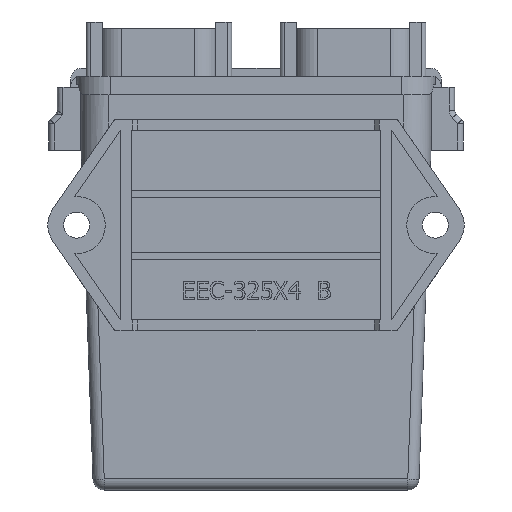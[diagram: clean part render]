
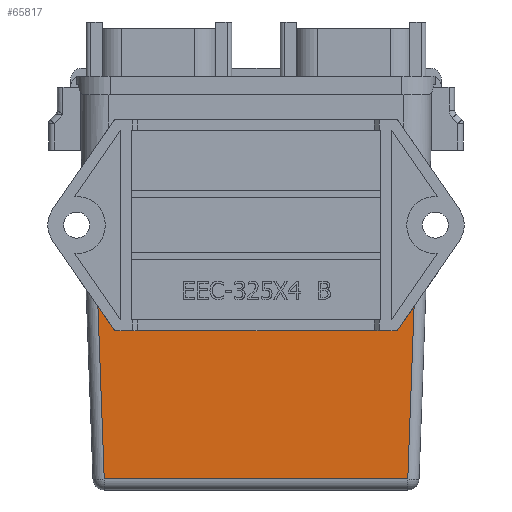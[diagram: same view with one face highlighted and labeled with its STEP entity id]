
A CAD part, front view. The second image highlights one B-rep face of the part: STEP entity #65817.
In plain terms, the highlighted planar face has unit normal (0, -1, -0.019).
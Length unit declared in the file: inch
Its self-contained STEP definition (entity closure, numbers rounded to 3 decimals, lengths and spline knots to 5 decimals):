
#62706=CARTESIAN_POINT('',(-1.575,-0.59645,-2.71));
#62707=VERTEX_POINT('',#62706);
#62714=CARTESIAN_POINT('',(1.575,-0.59645,-2.71));
#62715=VERTEX_POINT('',#62714);
#62716=CARTESIAN_POINT('',(1.575,-0.59645,-2.71));
#62717=DIRECTION('',(-1.0,0.0,0.0));
#62718=VECTOR('',#62717,3.15);
#62719=LINE('',#62716,#62718);
#62720=EDGE_CURVE('',#62715,#62707,#62719,.T.);
#65222=CARTESIAN_POINT('',(1.69197,-0.56531,-4.36535));
#65223=VERTEX_POINT('',#65222);
#65231=CARTESIAN_POINT('',(-1.69197,-0.56531,-4.36535));
#65232=VERTEX_POINT('',#65231);
#65233=CARTESIAN_POINT('',(1.69197,-0.56531,-4.36535));
#65234=DIRECTION('',(-1.0,0.0,0.0));
#65235=VECTOR('',#65234,3.38395);
#65236=LINE('',#65233,#65235);
#65237=EDGE_CURVE('',#65223,#65232,#65236,.T.);
#65761=CARTESIAN_POINT('',(-1.76216,-0.60153,-2.43995));
#65762=VERTEX_POINT('',#65761);
#65763=CARTESIAN_POINT('',(-1.69197,-0.56531,-4.36535));
#65764=DIRECTION('',(-0.036,-0.019,0.999));
#65765=VECTOR('',#65764,1.92702);
#65766=LINE('',#65763,#65765);
#65767=EDGE_CURVE('',#65232,#65762,#65766,.T.);
#65787=CARTESIAN_POINT('',(0.0,-0.563,-4.488));
#65788=DIRECTION('',(0.0,-1.,-0.019));
#65789=DIRECTION('',(0.0,0.019,-1.));
#65790=AXIS2_PLACEMENT_3D('',#65787,#65788,#65789);
#65791=PLANE('',#65790);
#65792=ORIENTED_EDGE('',*,*,#65237,.F.);
#65793=CARTESIAN_POINT('',(1.76216,-0.60153,-2.43995));
#65794=VERTEX_POINT('',#65793);
#65795=CARTESIAN_POINT('',(1.76216,-0.60153,-2.43995));
#65796=DIRECTION('',(-0.036,0.019,-0.999));
#65797=VECTOR('',#65796,1.92702);
#65798=LINE('',#65795,#65797);
#65799=EDGE_CURVE('',#65794,#65223,#65798,.T.);
#65800=ORIENTED_EDGE('',*,*,#65799,.F.);
#65801=CARTESIAN_POINT('',(1.76216,-0.60153,-2.43995));
#65802=DIRECTION('',(-0.57,0.015,-0.822));
#65803=VECTOR('',#65802,0.3286);
#65804=LINE('',#65801,#65803);
#65805=EDGE_CURVE('',#65794,#62715,#65804,.T.);
#65806=ORIENTED_EDGE('',*,*,#65805,.T.);
#65807=ORIENTED_EDGE('',*,*,#62720,.T.);
#65808=CARTESIAN_POINT('',(-1.575,-0.59645,-2.71));
#65809=DIRECTION('',(-0.57,-0.015,0.822));
#65810=VECTOR('',#65809,0.3286);
#65811=LINE('',#65808,#65810);
#65812=EDGE_CURVE('',#62707,#65762,#65811,.T.);
#65813=ORIENTED_EDGE('',*,*,#65812,.T.);
#65814=ORIENTED_EDGE('',*,*,#65767,.F.);
#65815=EDGE_LOOP('',(#65792,#65800,#65806,#65807,#65813,#65814));
#65816=FACE_OUTER_BOUND('',#65815,.T.);
#65817=ADVANCED_FACE('',(#65816),#65791,.T.);
